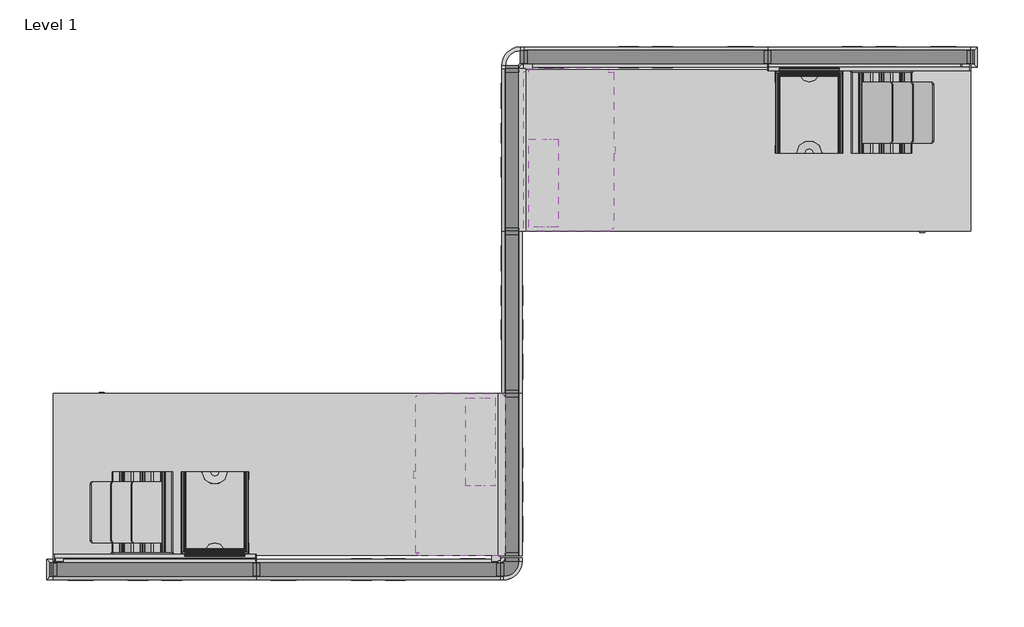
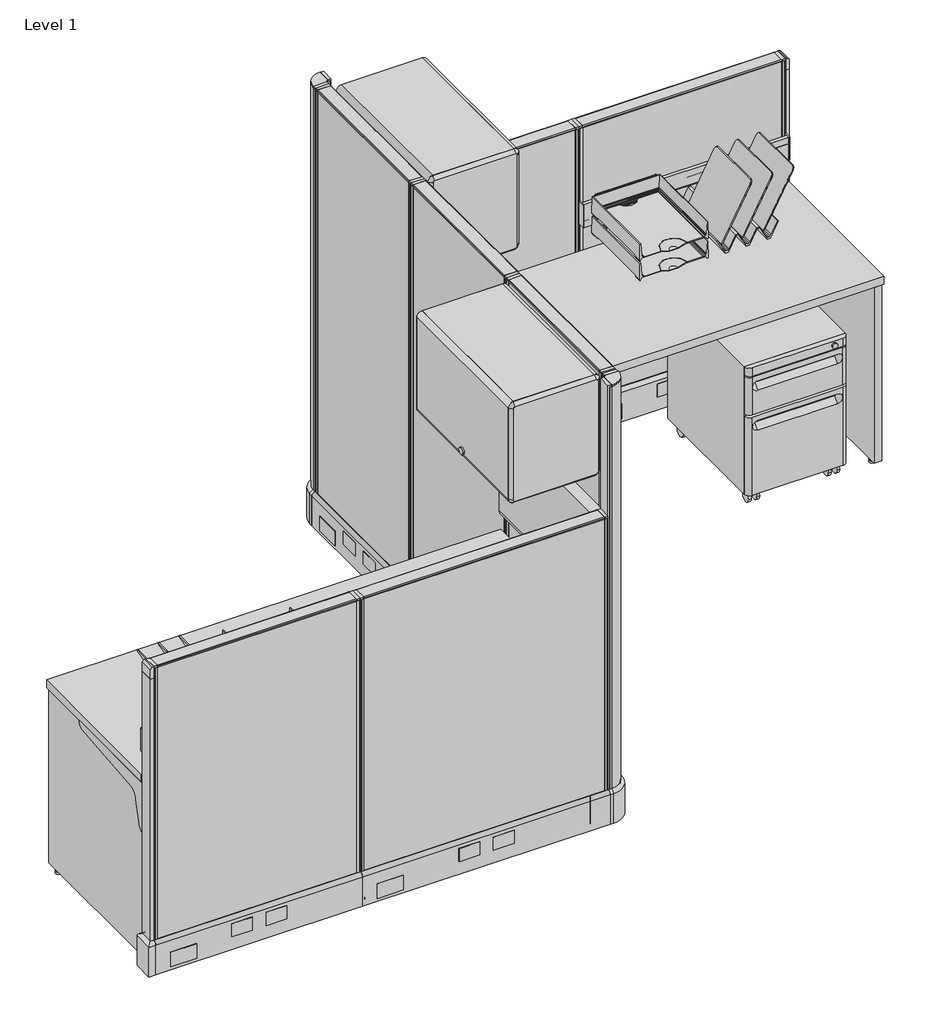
# One storey: 31 furniture elements, 2 light fixtures.
"""IFC4 building model written with IfcOpenShell, lengths in millimetres."""

from ifc_helpers import new_model, si_unit, origin, place, context, project, spatial, transform, mapped, element, save
from components import furniture_84c54a78, furniture_d4c83d08, furniture_e3a1ffe6, furniture_98713a82, furniture_96cd3a92, furniture_0d49a17f, furniture_061b7ed1, furniture_4d9edb30, furniture_f058e72c, furniture_a2665887, furniture_75fc3fe0, furniture_b7c7402d, furniture_d2009061, furniture_cbf60e6f, furniture_ba981915, light_fixture_0c34e72c

model = new_model("IFC4")

# Units and contexts
model_context = context("Model", 3, world=origin())
ifc_project = project(units=[si_unit("LENGTHUNIT", "METRE", prefix="MILLI")], contexts=[model_context])

# Site, building, storey
site = spatial("IfcSite", under=ifc_project)
building = spatial("IfcBuilding", under=site)
storey = spatial("IfcBuildingStorey", under=building, Name="Level 1", Elevation=0.0)

# Furniture
placement = place(None, origin())
furniture_shape = furniture_84c54a78(model_context)
element("IfcFurniture", 1, ObjectType="HermanMiller_QuadrantFiling_G5111_MobilePedestal : 21-1/2\"H x 20\"D x 15\"W BF", at=placement, inside=storey, context=model_context, shape_type="MappedRepresentation", body=[
    mapped(furniture_shape, transform((1359.2527592, -343.695023, 0.0), x_axis=(1.0, 0.0, 0.0), y_axis=(0.0, 1.0, 0.0), z_axis=(0.0, 0.0, 1.0))),
])
element("IfcFurniture", 2, ObjectType="HermanMiller_QuadrantFiling_G5111_MobilePedestal : 21-1/2\"H x 20\"D x 15\"W BF", at=placement, inside=storey, context=model_context, shape_type="MappedRepresentation", body=[
    mapped(furniture_shape, transform((-1448.1463448, -1485.1063415, 0.0), x_axis=(-0.999999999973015, -7.3464084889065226e-06, 0.0), y_axis=(7.3464084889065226e-06, -0.999999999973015, 0.0), z_axis=(0.0, 0.0, 1.0))),
])
furniture_2_shape = furniture_d4c83d08(model_context)
element("IfcFurniture", 3, ObjectType="HermanMiller_ActionOffice_A1110_Hard-SurfacedPanelStandardBase : 47\"H x 30\"W-G", at=placement, inside=storey, context=model_context, shape_type="MappedRepresentation", body=[
    mapped(furniture_2_shape, transform((-1384.2971777, -1879.6109161, 0.0), x_axis=(-0.999999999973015, -7.3464084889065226e-06, 0.0), y_axis=(7.3464084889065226e-06, -0.999999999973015, 0.0), z_axis=(0.0, 0.0, 1.0))),
])
element("IfcFurniture", 4, ObjectType="HermanMiller_ActionOffice_A1110_Hard-SurfacedPanelStandardBase : 47\"H x 30\"W-G", at=placement, inside=storey, context=model_context, shape_type="MappedRepresentation", body=[
    mapped(furniture_2_shape, transform((1295.4022392, 44.45, 0.0), x_axis=(1.0, 0.0, 0.0), y_axis=(0.0, 1.0, 0.0), z_axis=(0.0, 0.0, 1.0))),
])
furniture_3_shape = furniture_e3a1ffe6(model_context)
element("IfcFurniture", 5, ObjectType="HermanMiller_ActionOffice_A1110_Hard-SurfacedPanelStandardBase : 47\"H x 36\"W-G", at=placement, inside=storey, context=model_context, shape_type="MappedRepresentation", body=[
    mapped(furniture_3_shape, transform((-546.0971777, -1879.6047583, 0.0), x_axis=(-0.999999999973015, -7.3464084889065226e-06, 0.0), y_axis=(7.3464084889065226e-06, -0.999999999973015, 0.0), z_axis=(0.0, 0.0, 1.0))),
])
element("IfcFurniture", 6, ObjectType="HermanMiller_ActionOffice_A1110_Hard-SurfacedPanelStandardBase : 47\"H x 36\"W-G", at=placement, inside=storey, context=model_context, shape_type="MappedRepresentation", body=[
    mapped(furniture_3_shape, transform((457.2022392, 44.45, 0.0), x_axis=(1.0, 0.0, 0.0), y_axis=(0.0, 1.0, 0.0), z_axis=(0.0, 0.0, 1.0))),
])
furniture_4_shape = furniture_98713a82(model_context)
element("IfcFurniture", 7, ObjectType="HermanMiller_ActionOffice_A1110_Hard-SurfacedPanelStandardBase : 67\"H x 24\"W-G", at=placement, inside=storey, context=model_context, shape_type="MappedRepresentation", body=[
    mapped(furniture_4_shape, transform((-44.4488804, -1523.9999067, 0.0), x_axis=(-3.6732051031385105e-06, 0.9999999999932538, 0.0), y_axis=(-0.9999999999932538, -3.6732051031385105e-06, 0.0), z_axis=(0.0, 0.0, 1.0))),
])
element("IfcFurniture", 8, ObjectType="HermanMiller_ActionOffice_A1110_Hard-SurfacedPanelStandardBase : 67\"H x 24\"W-G", at=placement, inside=storey, context=model_context, shape_type="MappedRepresentation", body=[
    mapped(furniture_4_shape, transform((-44.4488804, -914.3999067, 0.0), x_axis=(-3.6732051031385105e-06, 0.9999999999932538, 0.0), y_axis=(-0.9999999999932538, -3.6732051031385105e-06, 0.0), z_axis=(0.0, 0.0, 1.0))),
])
element("IfcFurniture", 9, ObjectType="HermanMiller_ActionOffice_A1110_Hard-SurfacedPanelStandardBase : 67\"H x 24\"W-G", at=placement, inside=storey, context=model_context, shape_type="MappedRepresentation", body=[
    mapped(furniture_4_shape, transform((-44.4488804, -304.7999067, 0.0), x_axis=(-3.6732051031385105e-06, 0.9999999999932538, 0.0), y_axis=(-0.9999999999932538, -3.6732051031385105e-06, 0.0), z_axis=(0.0, 0.0, 1.0))),
])
furniture_5_shape = furniture_96cd3a92(model_context)
element("IfcFurniture", 10, ObjectType="HermanMiller_ActionOffice_A2310_Sq-EdgeRectangularWorkSurface : 24\"D x 66\"W", at=placement, inside=storey, context=model_context, shape_type="MappedRepresentation", body=[
    mapped(furniture_5_shape, transform((838.2022392, -295.275, 0.0), x_axis=(1.0, 0.0, 0.0), y_axis=(0.0, 1.0, 0.0), z_axis=(0.0, 0.0, 1.0))),
])
element("IfcFurniture", 11, ObjectType="HermanMiller_ActionOffice_A2310_Sq-EdgeRectangularWorkSurface : 24\"D x 66\"W", at=placement, inside=storey, context=model_context, shape_type="MappedRepresentation", body=[
    mapped(furniture_5_shape, transform((-927.10007, -1533.5311578, 0.0), x_axis=(-0.999999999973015, -7.3464084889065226e-06, 0.0), y_axis=(7.3464084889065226e-06, -0.999999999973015, 0.0), z_axis=(0.0, 0.0, 1.0))),
])
furniture_6_shape = furniture_0d49a17f(model_context)
element("IfcFurniture", 12, ObjectType="HermanMiller_ActionOffice_A3352_B-StyleFlipperDoorUnit : 15 1/2\"H x 13\"D x 24\"W", at=placement, inside=storey, context=model_context, shape_type="MappedRepresentation", body=[
    mapped(furniture_6_shape, transform((180.9761196, -304.7993352, 0.0), x_axis=(-3.6732051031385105e-06, 0.9999999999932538, 0.0), y_axis=(-0.9999999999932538, -3.6732051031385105e-06, 0.0), z_axis=(0.0, 0.0, 1.0))),
])
element("IfcFurniture", 13, ObjectType="HermanMiller_ActionOffice_A3352_B-StyleFlipperDoorUnit : 15 1/2\"H x 13\"D x 24\"W", at=placement, inside=storey, context=model_context, shape_type="MappedRepresentation", body=[
    mapped(furniture_6_shape, transform((-250.819402, -1524.0019943, 0.0), x_axis=(1.1019615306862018e-05, -0.9999999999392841, 0.0), y_axis=(0.9999999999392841, 1.1019615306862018e-05, 0.0), z_axis=(0.0, 0.0, 1.0))),
])
furniture_7_shape = furniture_061b7ed1(model_context)
element("IfcFurniture", 14, ObjectType="HermanMiller_ActionOffice_A3410_B-StyleTackboard : 16\"H x 24\"W", at=placement, inside=storey, context=model_context, shape_type="MappedRepresentation", body=[
    mapped(furniture_7_shape, transform((-6.3488804, -304.7999533, 0.0), x_axis=(-3.6732051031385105e-06, 0.9999999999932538, 0.0), y_axis=(-0.9999999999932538, -3.6732051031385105e-06, 0.0), z_axis=(0.0, 0.0, 1.0))),
])
element("IfcFurniture", 15, ObjectType="HermanMiller_ActionOffice_A3410_B-StyleTackboard : 16\"H x 24\"W", at=placement, inside=storey, context=model_context, shape_type="MappedRepresentation", body=[
    mapped(furniture_7_shape, transform((-82.544402, -1524.0001399, 0.0), x_axis=(1.1019615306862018e-05, -0.9999999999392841, 0.0), y_axis=(0.9999999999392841, 1.1019615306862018e-05, 0.0), z_axis=(0.0, 0.0, 1.0))),
])
furniture_8_shape = furniture_4d9edb30(model_context)
element("IfcFurniture", 16, ObjectType="HermanMiller_ActionOffice_A3610_ToolBar : 4\"H x 30\"W", at=placement, inside=storey, context=model_context, shape_type="MappedRepresentation", body=[
    mapped(furniture_8_shape, transform((-1384.2978541, -1835.1527994, 0.0), x_axis=(-0.999999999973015, -7.3464084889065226e-06, 0.0), y_axis=(7.3464084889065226e-06, -0.999999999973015, 0.0), z_axis=(0.0, 0.0, 1.0))),
])
element("IfcFurniture", 17, ObjectType="HermanMiller_ActionOffice_A3610_ToolBar : 4\"H x 30\"W", at=placement, inside=storey, context=model_context, shape_type="MappedRepresentation", body=[
    mapped(furniture_8_shape, transform((1295.4022392, 6.3500004, 0.0), x_axis=(1.0, 0.0, 0.0), y_axis=(0.0, 1.0, 0.0), z_axis=(0.0, 0.0, 1.0))),
])
furniture_9_shape = furniture_f058e72c(model_context)
element("IfcFurniture", 18, ObjectType="HermanMiller_ThrivePortfolio_Y7216_PaperTray : 3\"H x 12\"D x 10\"W", at=placement, inside=storey, context=model_context, shape_type="MappedRepresentation", body=[
    mapped(furniture_9_shape, transform((-1159.0618521, -1666.075833, 0.0), x_axis=(-0.999999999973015, -7.3464084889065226e-06, 0.0), y_axis=(7.3464084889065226e-06, -0.999999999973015, 0.0), z_axis=(0.0, 0.0, 1.0))),
])
element("IfcFurniture", 19, ObjectType="HermanMiller_ThrivePortfolio_Y7216_PaperTray : 3\"H x 12\"D x 10\"W", at=placement, inside=storey, context=model_context, shape_type="MappedRepresentation", body=[
    mapped(furniture_9_shape, transform((1070.1626592, -162.7251, 0.0), x_axis=(1.0, 0.0, 0.0), y_axis=(0.0, 1.0, 0.0), z_axis=(0.0, 0.0, 1.0))),
])
furniture_10_shape = furniture_a2665887(model_context)
element("IfcFurniture", 20, ObjectType="HermanMiller_ThrivePortfolio_Y7216_PaperTray : 3\"H x 12\"D x 10\"W", at=placement, inside=storey, context=model_context, shape_type="MappedRepresentation", body=[
    mapped(furniture_10_shape, transform((-1159.0618521, -1666.075833, 0.0), x_axis=(-0.999999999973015, -7.3464084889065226e-06, 0.0), y_axis=(7.3464084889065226e-06, -0.999999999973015, 0.0), z_axis=(0.0, 0.0, 1.0))),
])
element("IfcFurniture", 21, ObjectType="HermanMiller_ThrivePortfolio_Y7216_PaperTray : 3\"H x 12\"D x 10\"W", at=placement, inside=storey, context=model_context, shape_type="MappedRepresentation", body=[
    mapped(furniture_10_shape, transform((1070.1626592, -162.7251, 0.0), x_axis=(1.0, 0.0, 0.0), y_axis=(0.0, 1.0, 0.0), z_axis=(0.0, 0.0, 1.0))),
])
furniture_11_shape = furniture_75fc3fe0(model_context)
element("IfcFurniture", 22, ObjectType="HermanMiller_ThrivePortfolio_Y7218_DiagonalTray : 8 1/2\"H x 12\"D x 13\"W", at=placement, inside=storey, context=model_context, shape_type="MappedRepresentation", body=[
    mapped(furniture_11_shape, transform((1342.4707362, -162.55746, 0.0), x_axis=(1.0, 0.0, 0.0), y_axis=(0.0, 1.0, 0.0), z_axis=(0.0, 0.0, 1.0))),
])
element("IfcFurniture", 23, ObjectType="HermanMiller_ThrivePortfolio_Y7218_DiagonalTray : 8 1/2\"H x 12\"D x 13\"W", at=placement, inside=storey, context=model_context, shape_type="MappedRepresentation", body=[
    mapped(furniture_11_shape, transform((-1431.3699291, -1666.243391, 0.0), x_axis=(-0.999999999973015, -7.3464084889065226e-06, 0.0), y_axis=(7.3464084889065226e-06, -0.999999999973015, 0.0), z_axis=(0.0, 0.0, 1.0))),
])
furniture_12_shape = furniture_b7c7402d(model_context)
element("IfcFurniture", 24, ObjectType="HermanMiller_ActionOffice_A2380_WorkSuraceSupportPanelEnd : 24\"D", at=placement, inside=storey, context=model_context, shape_type="MappedRepresentation", body=[
    mapped(furniture_12_shape, transform((1639.5722392, -609.6, 0.0), x_axis=(1.0, 0.0, 0.0), y_axis=(0.0, 1.0, 0.0), z_axis=(0.0, 0.0, 1.0))),
])
element("IfcFurniture", 25, ObjectType="HermanMiller_ActionOffice_A2380_WorkSuraceSupportPanelEnd : 24\"D", at=placement, inside=storey, context=model_context, shape_type="MappedRepresentation", body=[
    mapped(furniture_12_shape, transform((-1728.4723791, -1219.2, 0.0), x_axis=(-0.999999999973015, -7.3464084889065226e-06, 0.0), y_axis=(7.3464084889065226e-06, -0.999999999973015, 0.0), z_axis=(0.0, 0.0, 1.0))),
])
furniture_13_shape = furniture_d2009061(model_context)
element("IfcFurniture", 26, ObjectType="HermanMiller_ActionOffice_AO259_AO272_FinishedEndChangeOfHeight : 32\"H Panel/Conn", at=placement, inside=storey, context=model_context, shape_type="MappedRepresentation", body=[
    mapped(furniture_13_shape, transform((-28.3767642, -1951.2334922, 0.0), x_axis=(1.0, 0.0, 0.0), y_axis=(0.0, 1.0, 0.0), z_axis=(0.0, 0.0, 1.0))),
])
element("IfcFurniture", 27, ObjectType="HermanMiller_ActionOffice_AO259_AO272_FinishedEndChangeOfHeight : 32\"H Panel/Conn", at=placement, inside=storey, context=model_context, shape_type="MappedRepresentation", body=[
    mapped(furniture_13_shape, transform((-60.519272, 124.020291, 0.0), x_axis=(-0.999999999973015, -7.3464084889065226e-06, 0.0), y_axis=(7.3464084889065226e-06, -0.999999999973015, 0.0), z_axis=(0.0, 0.0, 1.0))),
])
furniture_14_shape = furniture_cbf60e6f(model_context)
element("IfcFurniture", 28, ObjectType="HermanMiller_ActionOffice_A1271_FinishedEndStandardBase : 47\"H", at=placement, inside=storey, context=model_context, shape_type="MappedRepresentation", body=[
    mapped(furniture_14_shape, transform((219.5768629, -4328.3379211, 0.0), x_axis=(-0.999999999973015, -7.3464084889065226e-06, 0.0), y_axis=(7.3464084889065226e-06, -0.999999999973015, 0.0), z_axis=(0.0, 0.0, 1.0))),
])
element("IfcFurniture", 29, ObjectType="HermanMiller_ActionOffice_A1271_FinishedEndStandardBase : 47\"H", at=placement, inside=storey, context=model_context, shape_type="MappedRepresentation", body=[
    mapped(furniture_14_shape, transform((-308.453812, 2493.1887877, 0.0), x_axis=(1.0, 0.0, 0.0), y_axis=(0.0, 1.0, 0.0), z_axis=(0.0, 0.0, 1.0))),
])
furniture_15_shape = furniture_ba981915(model_context)
element("IfcFurniture", 30, ObjectType="HermanMiller_ActionOffice_A1220_90ConnectorStandardBase : 67\"H 2-Way-Hard", at=placement, inside=storey, context=model_context, shape_type="MappedRepresentation", body=[
    mapped(furniture_15_shape, transform((-58.9612823, -1873.2510697, 0.0), x_axis=(1.1019615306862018e-05, -0.9999999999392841, 0.0), y_axis=(0.9999999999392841, 1.1019615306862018e-05, 0.0), z_axis=(0.0, 0.0, 1.0))),
])
element("IfcFurniture", 31, ObjectType="HermanMiller_ActionOffice_A1220_90ConnectorStandardBase : 67\"H 2-Way-Hard", at=placement, inside=storey, context=model_context, shape_type="MappedRepresentation", body=[
    mapped(furniture_15_shape, transform((-29.9339594, 38.1001466, 0.0), x_axis=(-3.6732051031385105e-06, 0.9999999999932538, 0.0), y_axis=(-0.9999999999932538, -3.6732051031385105e-06, 0.0), z_axis=(0.0, 0.0, 1.0))),
])

# Light fixtures
light_fixture_shape = light_fixture_0c34e72c(model_context)
element("IfcLightFixture", 32, ObjectType="HermanMiller_SupplementalProducts_G6136_UtilityTaskLight : AO Etho Canvas 24W", at=placement, inside=storey, context=model_context, shape_type="MappedRepresentation", body=[
    mapped(light_fixture_shape, transform((73.0265735, -428.3706618, 0.0), x_axis=(-3.6732051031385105e-06, 0.9999999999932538, 0.0), y_axis=(-0.9999999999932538, -3.6732051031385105e-06, 0.0), z_axis=(0.0, 0.0, 1.0))),
])
element("IfcLightFixture", 33, ObjectType="HermanMiller_SupplementalProducts_G6136_UtilityTaskLight : AO Etho Canvas 24W", at=placement, inside=storey, context=model_context, shape_type="MappedRepresentation", body=[
    mapped(light_fixture_shape, transform((-161.9230029, -1400.4300146, 0.0), x_axis=(1.1019615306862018e-05, -0.9999999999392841, 0.0), y_axis=(0.9999999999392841, 1.1019615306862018e-05, 0.0), z_axis=(0.0, 0.0, 1.0))),
])

save(model, "model.ifc")
